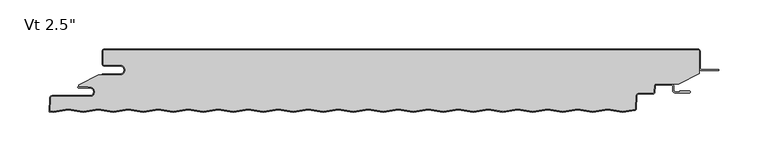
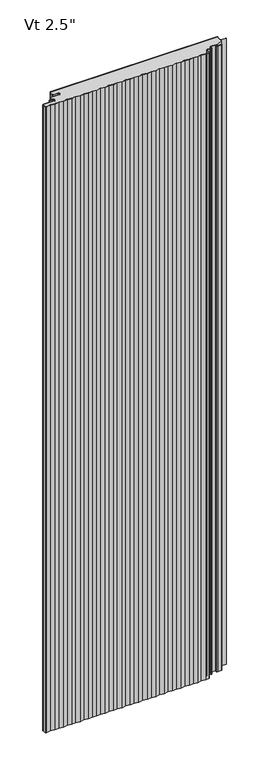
"""IFC4 building model written with IfcOpenShell, lengths in millimetres: plate geometry."""

from ifc_helpers import new_model, si_unit, point, frame, frame_2d, origin, origin_with_axes, place, context, project, spatial, polyline, circle_curve, ellipse_curve, trimmed, segment, composite_curve, outline, extrude, source, transform, mapped, element, save
from ifc_brep_helpers import plane_surface, cylinder_surface, revolved_surface, extruded_surface, advanced_brep


def plate_c93acdc9(model_context):
    return source(origin(), model_context, "Body", "SolidModel", [
        extrude(outline(composite_curve([segment(polyline([(-285.74375, -16.4625), (-301.61875, -16.4625)]), True, "CONTINUOUS"), segment(trimmed(circle_curve(frame_2d((-301.61875, -15.08125)), 1.38125), [point((-301.61875, -16.4625))], [point((-303.0, -15.08125))], False, "CARTESIAN"), True, "CONTINUOUS"), segment(polyline([(-303.0, -15.08125), (-303.0, -2.38125)]), True, "CONTINUOUS"), segment(trimmed(circle_curve(frame_2d((-301.61875, -2.38125)), 1.38125), [point((-303.0, -2.38125))], [point((-301.61875, -1.0))], False, "CARTESIAN"), True, "CONTINUOUS"), segment(polyline([(-301.61875, -1.0), (301.63125, -1.0)]), True, "CONTINUOUS"), segment(trimmed(circle_curve(frame_2d((301.63125, -2.38125)), 1.38125), [point((301.63125, -1.0))], [point((303.0125, -2.38125))], False, "CARTESIAN"), True, "CONTINUOUS"), segment(polyline([(303.0125, -2.38125), (303.0125, -24.9057308), (282.1955434, -35.5125), (259.7540783, -35.5125)]), True, "CONTINUOUS"), segment(trimmed(circle_curve(frame_2d((259.7540783, -38.1)), 2.5875), [point((259.7540783, -35.5125))], [point((257.1701244, -37.9645807))], True, "CARTESIAN"), True, "CONTINUOUS"), segment(polyline([(257.1701244, -37.9645807), (256.8680481, -43.728539)]), True, "CONTINUOUS"), segment(trimmed(circle_curve(frame_2d((255.4886911, -43.65625)), 1.38125), [point((256.8680481, -43.728539))], [point((255.4886911, -45.0375))], False, "CARTESIAN"), True, "CONTINUOUS"), segment(polyline([(255.4886911, -45.0375), (241.3323847, -45.0375)]), True, "CONTINUOUS"), segment(trimmed(circle_curve(frame_2d((241.3323847, -47.625)), 2.5875), [point((241.3323847, -45.0375))], [point((238.7484307, -47.4895807))], True, "CARTESIAN"), True, "CONTINUOUS"), segment(polyline([(238.7484307, -47.4895807), (238.0106485, -61.5673048), (225.2725, -63.6054086), (210.2350675, -61.1994194), (194.9950675, -63.6378194), (179.7550675, -61.1994194), (164.5150675, -63.6378194), (149.2750675, -61.1994194), (134.0350675, -63.6378194), (118.7950675, -61.1994194), (103.5550675, -63.6378194), (88.3150675, -61.1994194), (73.0750675, -63.6378194), (57.8350675, -61.1994194), (42.5950675, -63.6378194), (27.3550675, -61.1994194), (12.1150675, -63.6378194), (-3.1249325, -61.1994194), (-18.3649325, -63.6378194), (-33.6049325, -61.1994194), (-48.8449325, -63.6378194), (-64.0849325, -61.1994194), (-79.3249325, -63.6378194), (-94.5649325, -61.1994194), (-109.8049325, -63.6378194), (-125.0449325, -61.1994194), (-140.2849325, -63.6378194), (-155.5249325, -61.1994194), (-170.7649325, -63.6378194), (-186.0049325, -61.1994194), (-201.2449325, -63.6378194), (-216.4849325, -61.1994194), (-231.7249325, -63.6378194), (-246.9649325, -61.1994194), (-262.2049325, -63.6378194), (-277.4449325, -61.1994194), (-292.6849325, -63.6378194), (-307.9249325, -61.1994194), (-323.1649325, -63.6378194), (-338.4049325, -61.1994194), (-353.6449325, -63.6378194), (-356.9672594, -63.1062471), (-356.2769291, -49.933961)]), True, "CONTINUOUS"), segment(trimmed(circle_curve(frame_2d((-354.8975721, -50.00625)), 1.38125), [point((-356.2769291, -49.933961))], [point((-354.8975721, -48.625))], False, "CARTESIAN"), True, "CONTINUOUS"), segment(polyline([(-354.8975721, -48.625), (-316.7142674, -48.625)]), True, "CONTINUOUS"), segment(trimmed(circle_curve(frame_2d((-316.7142674, -43.65625)), 4.96875), [point((-316.7142674, -48.625))], [point((-316.7142674, -38.6875))], True, "CARTESIAN"), True, "CONTINUOUS"), segment(polyline([(-316.7142674, -38.6875), (-318.3017674, -38.89375), (-318.3017674, -38.1), (-327.8125, -38.1), (-327.8125, -36.5326309), (-307.9260922, -26.4), (-285.74375, -26.4)]), True, "CONTINUOUS"), segment(trimmed(circle_curve(frame_2d((-285.74375, -21.43125)), 4.96875), [point((-285.74375, -26.4))], [point((-285.74375, -16.4625))], True, "CARTESIAN"), True, "CONTINUOUS")], self_intersect=False)), origin_with_axes(), (0.0, 0.0, 1.0), 2400.0),
        extrude(outline(composite_curve([segment(polyline([(-304.0, -25.4), (-285.74375, -25.4)]), True, "CONTINUOUS"), segment(trimmed(circle_curve(frame_2d((-285.74375, -21.43125)), 3.96875), [point((-285.74375, -25.4))], [point((-285.74375, -17.4625))], True, "CARTESIAN"), True, "CONTINUOUS"), segment(polyline([(-285.74375, -17.4625), (-301.61875, -17.4625)]), True, "CONTINUOUS"), segment(trimmed(circle_curve(frame_2d((-301.61875, -15.08125)), 2.38125), [point((-301.61875, -17.4625))], [point((-304.0, -15.08125))], False, "CARTESIAN"), True, "CONTINUOUS"), segment(polyline([(-304.0, -15.08125), (-304.0, -2.38125)]), True, "CONTINUOUS"), segment(trimmed(circle_curve(frame_2d((-301.61875, -2.38125)), 2.38125), [point((-304.0, -2.38125))], [point((-301.61875, 0.0))], False, "CARTESIAN"), True, "CONTINUOUS"), segment(polyline([(-301.61875, 0.0), (301.63125, 0.0)]), True, "CONTINUOUS"), segment(trimmed(circle_curve(frame_2d((301.63125, -2.38125)), 2.38125), [point((301.63125, 0.0))], [point((304.0125, -2.38125))], False, "CARTESIAN"), True, "CONTINUOUS"), segment(polyline([(304.0125, -2.38125), (304.0125, -19.446875)]), True, "CONTINUOUS"), segment(trimmed(circle_curve(frame_2d((305.6, -19.446875)), 1.5875), [point((304.0125, -19.446875))], [point((305.6, -21.034375))], True, "CARTESIAN"), True, "CONTINUOUS"), segment(polyline([(305.6, -21.034375), (323.0625, -21.034375), (323.0625, -22.034375), (305.6, -22.034375)]), True, "CONTINUOUS"), segment(trimmed(circle_curve(frame_2d((305.6, -19.446875)), 2.5875), [point((305.6, -22.034375))], [point((303.0125, -19.446875))], False, "CARTESIAN"), True, "CONTINUOUS"), segment(polyline([(303.0125, -19.446875), (303.0125, -2.38125)]), True, "CONTINUOUS"), segment(trimmed(circle_curve(frame_2d((301.63125, -2.38125)), 1.38125), [point((303.0125, -2.38125))], [point((301.63125, -1.0))], True, "CARTESIAN"), True, "CONTINUOUS"), segment(polyline([(301.63125, -1.0), (-301.61875, -1.0)]), True, "CONTINUOUS"), segment(trimmed(circle_curve(frame_2d((-301.61875, -2.38125)), 1.38125), [point((-301.61875, -1.0))], [point((-303.0, -2.38125))], True, "CARTESIAN"), True, "CONTINUOUS"), segment(polyline([(-303.0, -2.38125), (-303.0, -15.08125)]), True, "CONTINUOUS"), segment(trimmed(circle_curve(frame_2d((-301.61875, -15.08125)), 1.38125), [point((-303.0, -15.08125))], [point((-301.61875, -16.4625))], True, "CARTESIAN"), True, "CONTINUOUS"), segment(polyline([(-301.61875, -16.4625), (-285.74375, -16.4625)]), True, "CONTINUOUS"), segment(trimmed(circle_curve(frame_2d((-285.74375, -21.43125)), 4.96875), [point((-285.74375, -16.4625))], [point((-285.74375, -26.4))], False, "CARTESIAN"), True, "CONTINUOUS"), segment(polyline([(-285.74375, -26.4), (-304.0, -26.4), (-304.0, -25.4)]), True, "CONTINUOUS")], self_intersect=False)), origin_with_axes(), (0.0, 0.0, 1.0), 2400.0),
        advanced_brep(
        [(-328.0252049, -38.1, 2400.0), (-328.0252049, -39.6875, 2400.0), (-316.7142674, -39.6875, 2400.0), (-316.7142674, -47.625, 2400.0), (-354.8975721, -47.625, 2400.0), (-357.2755586, -49.881625, 2400.0), (-358.01832, -64.0543553, 2400.0), (-353.6646686, -64.7509395, 2400.0), (-338.4246686, -62.3125395, 2400.0), (-323.1846686, -64.7509395, 2400.0), (-307.9446686, -62.3125395, 2400.0), (-292.7046686, -64.7509395, 2400.0), (-277.4646686, -62.3125395, 2400.0), (-262.2246686, -64.7509395, 2400.0), (-246.9846686, -62.3125395, 2400.0), (-231.7446686, -64.7509395, 2400.0), (-216.5046686, -62.3125395, 2400.0), (-201.2646686, -64.7509395, 2400.0), (-186.0246686, -62.3125395, 2400.0), (-170.7846686, -64.7509395, 2400.0), (-155.5446686, -62.3125395, 2400.0), (-140.3046686, -64.7509395, 2400.0), (-125.0646686, -62.3125395, 2400.0), (-109.8246686, -64.7509395, 2400.0), (-94.5846686, -62.3125395, 2400.0), (-79.3446686, -64.7509395, 2400.0), (-64.1046686, -62.3125395, 2400.0), (-48.8646686, -64.7509395, 2400.0), (-33.6246686, -62.3125395, 2400.0), (-18.3846686, -64.7509395, 2400.0), (-3.1446686, -62.3125395, 2400.0), (12.0953314, -64.7509395, 2400.0), (27.3353314, -62.3125395, 2400.0), (42.5753314, -64.7509395, 2400.0), (57.8153314, -62.3125395, 2400.0), (73.0553314, -64.7509395, 2400.0), (88.2953314, -62.3125395, 2400.0), (103.5353314, -64.7509395, 2400.0), (118.7753314, -62.3125395, 2400.0), (134.0153314, -64.7509395, 2400.0), (149.2553314, -62.3125395, 2400.0), (164.4953314, -64.7509395, 2400.0), (179.7353314, -62.3125395, 2400.0), (194.9753314, -64.7509395, 2400.0), (210.2153314, -62.3125395, 2400.0), (225.2527639, -64.7185287, 2400.0), (237.6944828, -62.7278537, 2400.0), (239.0289973, -61.243375, 2400.0), (239.7470603, -47.5419167, 2400.0), (241.3323847, -46.0375, 2400.0), (255.4886911, -46.0375, 2400.0), (257.8666776, -43.780875, 2400.0), (258.1687539, -38.0169167, 2400.0), (259.7540783, -36.5125, 2400.0), (274.6294826, -36.5125, 2400.0), (276.2169826, -38.1, 2400.0), (276.2169826, -42.2671875, 2400.0), (278.5982326, -44.6484375, 2400.0), (293.0898532, -44.6484375, 2400.0), (293.0898532, -42.8546875, 2400.0), (283.3607326, -42.8546875, 2400.0), (283.3607326, -43.6484375, 2400.0), (278.5982326, -43.6484375, 2400.0), (277.2169826, -42.2671875, 2400.0), (277.2169826, -38.1, 2400.0), (274.6294826, -35.5125, 2400.0), (259.7540783, -35.5125, 2400.0), (257.1701244, -37.9645807, 2400.0), (256.8680481, -43.728539, 2400.0), (255.4886911, -45.0375, 2400.0), (241.3323847, -45.0375, 2400.0), (238.7484307, -47.4895807, 2400.0), (238.0303677, -61.191039, 2400.0), (237.5364923, -61.740413, 2400.0), (225.2527639, -63.7058096, 2400.0), (210.2153314, -61.2998204, 2400.0), (194.9753314, -63.7382204, 2400.0), (179.7353314, -61.2998204, 2400.0), (164.4953314, -63.7382204, 2400.0), (149.2553314, -61.2998204, 2400.0), (134.0153314, -63.7382204, 2400.0), (118.7753314, -61.2998204, 2400.0), (103.5353314, -63.7382204, 2400.0), (88.2953314, -61.2998204, 2400.0), (73.0553314, -63.7382204, 2400.0), (57.8153314, -61.2998204, 2400.0), (42.5753314, -63.7382204, 2400.0), (27.3353314, -61.2998204, 2400.0), (12.0953314, -63.7382204, 2400.0), (-3.1446686, -61.2998204, 2400.0), (-18.3846686, -63.7382204, 2400.0), (-33.6246686, -61.2998204, 2400.0), (-48.8646686, -63.7382204, 2400.0), (-64.1046686, -61.2998204, 2400.0), (-79.3446686, -63.7382204, 2400.0), (-94.5846686, -61.2998204, 2400.0), (-109.8246686, -63.7382204, 2400.0), (-125.0646686, -61.2998204, 2400.0), (-140.3046686, -63.7382204, 2400.0), (-155.5446686, -61.2998204, 2400.0), (-170.7846686, -63.7382204, 2400.0), (-186.0246686, -61.2998204, 2400.0), (-201.2646686, -63.7382204, 2400.0), (-216.5046686, -61.2998204, 2400.0), (-231.7446686, -63.7382204, 2400.0), (-246.9846686, -61.2998204, 2400.0), (-262.2246686, -63.7382204, 2400.0), (-277.4646686, -61.2998204, 2400.0), (-292.7046686, -63.7382204, 2400.0), (-307.9446686, -61.2998204, 2400.0), (-323.1846686, -63.7382204, 2400.0), (-338.4246686, -61.2998204, 2400.0), (-353.6646686, -63.7382204, 2400.0), (-356.9726415, -63.2089447, 2400.0), (-356.2769291, -49.933961, 2400.0), (-354.8975721, -48.625, 2400.0), (-316.7142674, -48.625, 2400.0), (-316.7142674, -38.6875, 2400.0), (-318.3017674, -38.89375, 2400.0), (-318.3017674, -38.1, 2400.0), (-328.0252049, -38.1, 0.0), (-318.3017674, -38.1, 0.0), (-318.3017674, -38.89375, 0.0), (-316.7142674, -38.6875, 0.0), (-316.7142674, -48.625, 0.0), (-354.8975721, -48.625, 0.0), (-356.2769291, -49.933961, 0.0), (-356.9726415, -63.2089447, 0.0), (-353.6646686, -63.7382204, 0.0), (-338.4246686, -61.2998204, 0.0), (-323.1846686, -63.7382204, 0.0), (-307.9446686, -61.2998204, 0.0), (-292.7046686, -63.7382204, 0.0), (-277.4646686, -61.2998204, 0.0), (-262.2246686, -63.7382204, 0.0), (-246.9846686, -61.2998204, 0.0), (-231.7446686, -63.7382204, 0.0), (-216.5046686, -61.2998204, 0.0), (-201.2646686, -63.7382204, 0.0), (-186.0246686, -61.2998204, 0.0), (-170.7846686, -63.7382204, 0.0), (-155.5446686, -61.2998204, 0.0), (-140.3046686, -63.7382204, 0.0), (-125.0646686, -61.2998204, 0.0), (-109.8246686, -63.7382204, 0.0), (-94.5846686, -61.2998204, 0.0), (-79.3446686, -63.7382204, 0.0), (-64.1046686, -61.2998204, 0.0), (-48.8646686, -63.7382204, 0.0), (-33.6246686, -61.2998204, 0.0), (-18.3846686, -63.7382204, 0.0), (-3.1446686, -61.2998204, 0.0), (12.0953314, -63.7382204, 0.0), (27.3353314, -61.2998204, 0.0), (42.5753314, -63.7382204, 0.0), (57.8153314, -61.2998204, 0.0), (73.0553314, -63.7382204, 0.0), (88.2953314, -61.2998204, 0.0), (103.5353314, -63.7382204, 0.0), (118.7753314, -61.2998204, 0.0), (134.0153314, -63.7382204, 0.0), (149.2553314, -61.2998204, 0.0), (164.4953314, -63.7382204, 0.0), (179.7353314, -61.2998204, 0.0), (194.9753314, -63.7382204, 0.0), (210.2153314, -61.2998204, 0.0), (225.2527639, -63.7058096, 0.0), (237.5364923, -61.740413, 0.0), (238.0303677, -61.191039, 0.0), (238.7484307, -47.4895807, 0.0), (241.3323847, -45.0375, 0.0), (255.4886911, -45.0375, 0.0), (256.8680481, -43.728539, 0.0), (257.1701244, -37.9645807, 0.0), (259.7540783, -35.5125, 0.0), (274.6294826, -35.5125, 0.0), (277.2169826, -38.1, 0.0), (277.2169826, -42.2671875, 0.0), (278.5982326, -43.6484375, 0.0), (283.3607326, -43.6484375, 0.0), (283.3607326, -42.8546875, 0.0), (293.0898532, -42.8546875, 0.0), (293.0898532, -44.6484375, 0.0), (278.5982326, -44.6484375, 0.0), (276.2169826, -42.2671875, 0.0), (276.2169826, -38.1, 0.0), (274.6294826, -36.5125, 0.0), (259.7540783, -36.5125, 0.0), (258.1687539, -38.0169167, 0.0), (257.8666776, -43.780875, 0.0), (255.4886911, -46.0375, 0.0), (241.3323847, -46.0375, 0.0), (239.7470603, -47.5419167, 0.0), (239.0289973, -61.243375, 0.0), (237.6944828, -62.7278537, 0.0), (225.2527639, -64.7185287, 0.0), (210.2153314, -62.3125395, 0.0), (194.9753314, -64.7509395, 0.0), (179.7353314, -62.3125395, 0.0), (164.4953314, -64.7509395, 0.0), (149.2553314, -62.3125395, 0.0), (134.0153314, -64.7509395, 0.0), (118.7753314, -62.3125395, 0.0), (103.5353314, -64.7509395, 0.0), (88.2953314, -62.3125395, 0.0), (73.0553314, -64.7509395, 0.0), (57.8153314, -62.3125395, 0.0), (42.5753314, -64.7509395, 0.0), (27.3353314, -62.3125395, 0.0), (12.0953314, -64.7509395, 0.0), (-3.1446686, -62.3125395, 0.0), (-18.3846686, -64.7509395, 0.0), (-33.6246686, -62.3125395, 0.0), (-48.8646686, -64.7509395, 0.0), (-64.1046686, -62.3125395, 0.0), (-79.3446686, -64.7509395, 0.0), (-94.5846686, -62.3125395, 0.0), (-109.8246686, -64.7509395, 0.0), (-125.0646686, -62.3125395, 0.0), (-140.3046686, -64.7509395, 0.0), (-155.5446686, -62.3125395, 0.0), (-170.7846686, -64.7509395, 0.0), (-186.0246686, -62.3125395, 0.0), (-201.2646686, -64.7509395, 0.0), (-216.5046686, -62.3125395, 0.0), (-231.7446686, -64.7509395, 0.0), (-246.9846686, -62.3125395, 0.0), (-262.2246686, -64.7509395, 0.0), (-277.4646686, -62.3125395, 0.0), (-292.7046686, -64.7509395, 0.0), (-307.9446686, -62.3125395, 0.0), (-323.1846686, -64.7509395, 0.0), (-338.4246686, -62.3125395, 0.0), (-353.6646686, -64.7509395, 0.0), (-358.01832, -64.0543553, 0.0), (-357.2755586, -49.881625, 0.0), (-354.8975721, -47.625, 0.0), (-316.7142674, -47.625, 0.0), (-316.7142674, -39.6875, 0.0), (-328.0252049, -39.6875, 0.0)],
        [
            (0, 1, circle_curve(frame((-328.0252049, -38.89375, 2400.0), z_axis=(0.0, 0.0, 1.0), x_axis=(1.0, 0.0, 0.0)), 0.79375)),
            (1, 2),
            (2, 3, circle_curve(frame((-316.7142674, -43.65625, 2400.0), z_axis=(0.0, 0.0, -1.0), x_axis=(1.0, 0.0, 0.0)), 3.96875)),
            (3, 4),
            (4, 5, circle_curve(frame((-354.8975721, -50.00625, 2400.0), z_axis=(0.0, 0.0, 1.0), x_axis=(1.0, 0.0, 0.0)), 2.38125)),
            (5, 6),
            (6, 7),
            (7, 8),
            (8, 9),
            (9, 10),
            (10, 11),
            (11, 12),
            (12, 13),
            (13, 14),
            (14, 15),
            (15, 16),
            (16, 17),
            (17, 18),
            (18, 19),
            (19, 20),
            (20, 21),
            (21, 22),
            (22, 23),
            (23, 24),
            (24, 25),
            (25, 26),
            (26, 27),
            (27, 28),
            (28, 29),
            (29, 30),
            (30, 31),
            (31, 32),
            (32, 33),
            (33, 34),
            (34, 35),
            (35, 36),
            (36, 37),
            (37, 38),
            (38, 39),
            (39, 40),
            (40, 41),
            (41, 42),
            (42, 43),
            (43, 44),
            (44, 45),
            (45, 46),
            (46, 47, circle_curve(frame((237.4436729, -61.1602917, 2400.0), z_axis=(0.0, 0.0, 1.0), x_axis=(1.0, 0.0, 0.0)), 1.5875)),
            (47, 48),
            (48, 49, circle_curve(frame((241.3323847, -47.625, 2400.0), z_axis=(0.0, 0.0, -1.0), x_axis=(1.0, 0.0, 0.0)), 1.5875)),
            (49, 50),
            (50, 51, circle_curve(frame((255.4886911, -43.65625, 2400.0), z_axis=(0.0, 0.0, 1.0), x_axis=(1.0, 0.0, 0.0)), 2.38125)),
            (51, 52),
            (52, 53, circle_curve(frame((259.7540783, -38.1, 2400.0), z_axis=(0.0, 0.0, -1.0), x_axis=(1.0, 0.0, 0.0)), 1.5875)),
            (53, 54),
            (54, 55, circle_curve(frame((274.6294826, -38.1, 2400.0), z_axis=(0.0, 0.0, -1.0), x_axis=(1.0, 0.0, 0.0)), 1.5875)),
            (55, 56),
            (56, 57, circle_curve(frame((278.5982326, -42.2671875, 2400.0), z_axis=(0.0, 0.0, 1.0), x_axis=(1.0, 0.0, 0.0)), 2.38125)),
            (57, 58),
            (58, 59, ellipse_curve(frame((293.0898532, -43.7515625, 2400.0), z_axis=(0.0, 0.0, 1.0), x_axis=(0.0, 1.0, 0.0)), 0.896875, 0.7852275)),
            (59, 60),
            (60, 61),
            (61, 62),
            (62, 63, circle_curve(frame((278.5982326, -42.2671875, 2400.0), z_axis=(0.0, 0.0, -1.0), x_axis=(1.0, 0.0, 0.0)), 1.38125)),
            (63, 64),
            (64, 65, circle_curve(frame((274.6294826, -38.1, 2400.0), z_axis=(0.0, 0.0, 1.0), x_axis=(1.0, 0.0, 0.0)), 2.5875)),
            (65, 66),
            (66, 67, circle_curve(frame((259.7540783, -38.1, 2400.0), z_axis=(0.0, 0.0, 1.0), x_axis=(1.0, 0.0, 0.0)), 2.5875)),
            (67, 68),
            (68, 69, circle_curve(frame((255.4886911, -43.65625, 2400.0), z_axis=(0.0, 0.0, -1.0), x_axis=(1.0, 0.0, 0.0)), 1.38125)),
            (69, 70),
            (70, 71, circle_curve(frame((241.3323847, -47.625, 2400.0), z_axis=(0.0, 0.0, 1.0), x_axis=(1.0, 0.0, 0.0)), 2.5875)),
            (71, 72),
            (72, 73, circle_curve(frame((237.4436729, -61.1602917, 2400.0), z_axis=(0.0, 0.0, -1.0), x_axis=(1.0, 0.0, 0.0)), 0.5875)),
            (73, 74),
            (74, 75),
            (75, 76),
            (76, 77),
            (77, 78),
            (78, 79),
            (79, 80),
            (80, 81),
            (81, 82),
            (82, 83),
            (83, 84),
            (84, 85),
            (85, 86),
            (86, 87),
            (87, 88),
            (88, 89),
            (89, 90),
            (90, 91),
            (91, 92),
            (92, 93),
            (93, 94),
            (94, 95),
            (95, 96),
            (96, 97),
            (97, 98),
            (98, 99),
            (99, 100),
            (100, 101),
            (101, 102),
            (102, 103),
            (103, 104),
            (104, 105),
            (105, 106),
            (106, 107),
            (107, 108),
            (108, 109),
            (109, 110),
            (110, 111),
            (111, 112),
            (112, 113),
            (113, 114),
            (114, 115, circle_curve(frame((-354.8975721, -50.00625, 2400.0), z_axis=(0.0, 0.0, -1.0), x_axis=(1.0, 0.0, 0.0)), 1.38125)),
            (115, 116),
            (116, 117, circle_curve(frame((-316.7142674, -43.65625, 2400.0), z_axis=(0.0, 0.0, 1.0), x_axis=(1.0, 0.0, 0.0)), 4.96875)),
            (117, 118),
            (118, 119),
            (119, 0),
            (120, 121),
            (121, 122),
            (122, 123),
            (123, 124, circle_curve(frame((-316.7142674, -43.65625, 0.0), z_axis=(0.0, 0.0, -1.0), x_axis=(1.0, 0.0, 0.0)), 4.96875)),
            (124, 125),
            (125, 126, circle_curve(frame((-354.8975721, -50.00625, 0.0), z_axis=(0.0, 0.0, 1.0), x_axis=(1.0, 0.0, 0.0)), 1.38125)),
            (126, 127),
            (127, 128),
            (128, 129),
            (129, 130),
            (130, 131),
            (131, 132),
            (132, 133),
            (133, 134),
            (134, 135),
            (135, 136),
            (136, 137),
            (137, 138),
            (138, 139),
            (139, 140),
            (140, 141),
            (141, 142),
            (142, 143),
            (143, 144),
            (144, 145),
            (145, 146),
            (146, 147),
            (147, 148),
            (148, 149),
            (149, 150),
            (150, 151),
            (151, 152),
            (152, 153),
            (153, 154),
            (154, 155),
            (155, 156),
            (156, 157),
            (157, 158),
            (158, 159),
            (159, 160),
            (160, 161),
            (161, 162),
            (162, 163),
            (163, 164),
            (164, 165),
            (165, 166),
            (166, 167),
            (167, 168, circle_curve(frame((237.4436729, -61.1602917, 0.0), z_axis=(0.0, 0.0, 1.0), x_axis=(1.0, 0.0, 0.0)), 0.5875)),
            (168, 169),
            (169, 170, circle_curve(frame((241.3323847, -47.625, 0.0), z_axis=(0.0, 0.0, -1.0), x_axis=(1.0, 0.0, 0.0)), 2.5875)),
            (170, 171),
            (171, 172, circle_curve(frame((255.4886911, -43.65625, 0.0), z_axis=(0.0, 0.0, 1.0), x_axis=(1.0, 0.0, 0.0)), 1.38125)),
            (172, 173),
            (173, 174, circle_curve(frame((259.7540783, -38.1, 0.0), z_axis=(0.0, 0.0, -1.0), x_axis=(1.0, 0.0, 0.0)), 2.5875)),
            (174, 175),
            (175, 176, circle_curve(frame((274.6294826, -38.1, 0.0), z_axis=(0.0, 0.0, -1.0), x_axis=(1.0, 0.0, 0.0)), 2.5875)),
            (176, 177),
            (177, 178, circle_curve(frame((278.5982326, -42.2671875, 0.0), z_axis=(0.0, 0.0, 1.0), x_axis=(1.0, 0.0, 0.0)), 1.38125)),
            (178, 179),
            (179, 180),
            (180, 181),
            (181, 182, ellipse_curve(frame((293.0898532, -43.7515625, 0.0), z_axis=(0.0, 0.0, -1.0), x_axis=(0.0, 1.0, 0.0)), 0.896875, 0.7852275)),
            (182, 183),
            (183, 184, circle_curve(frame((278.5982326, -42.2671875, 0.0), z_axis=(0.0, 0.0, -1.0), x_axis=(1.0, 0.0, 0.0)), 2.38125)),
            (184, 185),
            (185, 186, circle_curve(frame((274.6294826, -38.1, 0.0), z_axis=(0.0, 0.0, 1.0), x_axis=(1.0, 0.0, 0.0)), 1.5875)),
            (186, 187),
            (187, 188, circle_curve(frame((259.7540783, -38.1, 0.0), z_axis=(0.0, 0.0, 1.0), x_axis=(1.0, 0.0, 0.0)), 1.5875)),
            (188, 189),
            (189, 190, circle_curve(frame((255.4886911, -43.65625, 0.0), z_axis=(0.0, 0.0, -1.0), x_axis=(1.0, 0.0, 0.0)), 2.38125)),
            (190, 191),
            (191, 192, circle_curve(frame((241.3323847, -47.625, 0.0), z_axis=(0.0, 0.0, 1.0), x_axis=(1.0, 0.0, 0.0)), 1.5875)),
            (192, 193),
            (193, 194, circle_curve(frame((237.4436729, -61.1602917, 0.0), z_axis=(0.0, 0.0, -1.0), x_axis=(1.0, 0.0, 0.0)), 1.5875)),
            (194, 195),
            (195, 196),
            (196, 197),
            (197, 198),
            (198, 199),
            (199, 200),
            (200, 201),
            (201, 202),
            (202, 203),
            (203, 204),
            (204, 205),
            (205, 206),
            (206, 207),
            (207, 208),
            (208, 209),
            (209, 210),
            (210, 211),
            (211, 212),
            (212, 213),
            (213, 214),
            (214, 215),
            (215, 216),
            (216, 217),
            (217, 218),
            (218, 219),
            (219, 220),
            (220, 221),
            (221, 222),
            (222, 223),
            (223, 224),
            (224, 225),
            (225, 226),
            (226, 227),
            (227, 228),
            (228, 229),
            (229, 230),
            (230, 231),
            (231, 232),
            (232, 233),
            (233, 234),
            (234, 235),
            (235, 236, circle_curve(frame((-354.8975721, -50.00625, 0.0), z_axis=(0.0, 0.0, -1.0), x_axis=(1.0, 0.0, 0.0)), 2.38125)),
            (236, 237),
            (237, 238, circle_curve(frame((-316.7142674, -43.65625, 0.0), z_axis=(0.0, 0.0, 1.0), x_axis=(1.0, 0.0, 0.0)), 3.96875)),
            (238, 239),
            (239, 120, circle_curve(frame((-328.0252049, -38.89375, 0.0), z_axis=(0.0, 0.0, -1.0), x_axis=(1.0, 0.0, 0.0)), 0.79375)),
            (119, 121),
            (120, 0),
            (239, 1),
            (238, 2),
            (237, 3),
            (236, 4),
            (235, 5),
            (234, 6),
            (48, 192),
            (191, 49),
            (190, 50),
            (189, 51),
            (188, 52),
            (187, 53),
            (114, 126),
            (125, 115),
            (113, 127),
            (70, 170),
            (169, 71),
            (69, 171),
            (68, 172),
            (67, 173),
            (66, 174),
            (61, 179),
            (178, 62),
            (177, 63),
            (176, 64),
            (186, 54),
            (185, 55),
            (184, 56),
            (183, 57),
            (182, 58),
            (65, 175),
            (124, 116),
            (123, 117),
            (118, 122),
            (60, 180),
            (59, 181),
            (47, 193),
            (168, 72),
            (44, 196),
            (195, 45),
            (74, 166),
            (165, 75),
            (164, 76),
            (163, 77),
            (162, 78),
            (161, 79),
            (160, 80),
            (159, 81),
            (158, 82),
            (157, 83),
            (156, 84),
            (155, 85),
            (154, 86),
            (153, 87),
            (152, 88),
            (151, 89),
            (107, 133),
            (132, 108),
            (131, 109),
            (130, 110),
            (129, 111),
            (106, 134),
            (105, 135),
            (104, 136),
            (103, 137),
            (102, 138),
            (101, 139),
            (100, 140),
            (99, 141),
            (98, 142),
            (97, 143),
            (96, 144),
            (95, 145),
            (94, 146),
            (93, 147),
            (92, 148),
            (91, 149),
            (90, 150),
            (128, 112),
            (233, 7),
            (232, 8),
            (231, 9),
            (230, 10),
            (229, 11),
            (228, 12),
            (227, 13),
            (226, 14),
            (225, 15),
            (224, 16),
            (223, 17),
            (222, 18),
            (30, 210),
            (209, 31),
            (208, 32),
            (207, 33),
            (206, 34),
            (205, 35),
            (204, 36),
            (203, 37),
            (202, 38),
            (201, 39),
            (200, 40),
            (199, 41),
            (198, 42),
            (197, 43),
            (194, 46),
            (167, 73),
            (29, 211),
            (28, 212),
            (27, 213),
            (26, 214),
            (25, 215),
            (24, 216),
            (23, 217),
            (22, 218),
            (21, 219),
            (20, 220),
            (19, 221),
        ],
        [
            plane_surface(frame((0.00625, -63.5, 2400.0), z_axis=(0.0, 0.0, 1.0), x_axis=(0.0, -1.0, 0.0))),
            plane_surface(frame((0.00625, -63.5, 0.0), z_axis=(0.0, 0.0, -1.0), x_axis=(0.0, -1.0, 0.0))),
            plane_surface(frame((-328.0252049, -38.1, 2400.0), z_axis=(0.0, 1.0, 0.0), x_axis=(0.0, 0.0, -1.0))),
            cylinder_surface(frame((-328.0252049, -38.89375, 2400.0), z_axis=(0.0, 0.0, 1.0), x_axis=(1.0, 0.0, 0.0)), 0.79375),
            plane_surface(frame((-316.7142674, -39.6875, 2400.0), z_axis=(0.0, -1.0, 0.0), x_axis=(0.0, 0.0, -1.0))),
            revolved_surface(polyline([(-312.7455174, -43.65625, 0.0), (-312.7455174, -43.65625, 2400.0)]), (-316.7142674, -43.65625, 2400.0), (0.0, 0.0, -1.0)),
            plane_surface(frame((-354.8975721, -47.625, 2400.0), z_axis=(0.0, 1.0, 0.0), x_axis=(0.0, 0.0, -1.0))),
            cylinder_surface(frame((-354.8975721, -50.00625, 2400.0), z_axis=(0.0, 0.0, 1.0), x_axis=(1.0, 0.0, 0.0)), 2.38125),
            plane_surface(frame((-358.01832, -64.0543553, 2400.0), z_axis=(-0.9986295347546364, 0.05233595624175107, 0.0), x_axis=(0.0, 0.0, -1.0))),
            revolved_surface(polyline([(242.9198847, -47.625, 0.0), (242.9198847, -47.625, 2400.0)]), (241.3323847, -47.625, 2400.0), (0.0, 0.0, -1.0)),
            plane_surface(frame((255.4886911, -46.0375, 2400.0), z_axis=(0.0, -1.0, 0.0), x_axis=(0.0, 0.0, -1.0))),
            cylinder_surface(frame((255.4886911, -43.65625, 2400.0), z_axis=(0.0, 0.0, 1.0), x_axis=(1.0, 0.0, 0.0)), 2.38125),
            plane_surface(frame((258.1687539, -38.0169167, 2400.0), z_axis=(0.9986295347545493, -0.052335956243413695, 0.0), x_axis=(0.0, 0.0, -1.0))),
            revolved_surface(polyline([(261.3415783, -38.1, 0.0), (261.3415783, -38.1, 2400.0)]), (259.7540783, -38.1, 2400.0), (0.0, 0.0, -1.0)),
            revolved_surface(polyline([(-353.51632209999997, -50.00625, 0.0), (-353.51632209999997, -50.00625, 2400.0)]), (-354.8975721, -50.00625, 2400.0), (0.0, 0.0, -1.0)),
            plane_surface(frame((-356.2769291, -49.933961, 2400.0), z_axis=(0.9986295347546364, -0.05233595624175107, 0.0), x_axis=(0.0, 0.0, -1.0))),
            cylinder_surface(frame((241.3323847, -47.625, 2400.0), z_axis=(0.0, 0.0, 1.0), x_axis=(1.0, 0.0, 0.0)), 2.5875),
            plane_surface(frame((241.3323847, -45.0375, 2400.0), z_axis=(0.0, 1.0, 0.0), x_axis=(0.0, 0.0, -1.0))),
            revolved_surface(polyline([(256.8699411, -43.65625, 0.0), (256.8699411, -43.65625, 2400.0)]), (255.4886911, -43.65625, 2400.0), (0.0, 0.0, -1.0)),
            plane_surface(frame((256.8680481, -43.728539, 2400.0), z_axis=(-0.998629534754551, 0.05233595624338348, 0.0), x_axis=(0.0, 0.0, -1.0))),
            cylinder_surface(frame((259.7540783, -38.1, 2400.0), z_axis=(0.0, 0.0, 1.0), x_axis=(1.0, 0.0, 0.0)), 2.5875),
            plane_surface(frame((278.5982326, -43.6484375, 2400.0), z_axis=(0.0, 1.0, 0.0), x_axis=(0.0, 0.0, -1.0))),
            revolved_surface(polyline([(279.97948260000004, -42.2671875, 0.0), (279.97948260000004, -42.2671875, 2400.0)]), (278.5982326, -42.2671875, 2400.0), (0.0, 0.0, -1.0)),
            plane_surface(frame((277.2169826, -38.1, 2400.0), z_axis=(1.0, 0.0, 0.0), x_axis=(0.0, 0.0, -1.0))),
            plane_surface(frame((274.6294826, -36.5125, 2400.0), z_axis=(0.0, -1.0, 0.0), x_axis=(0.0, 0.0, -1.0))),
            revolved_surface(polyline([(276.2169826, -38.1, 0.0), (276.2169826, -38.1, 2400.0)]), (274.6294826, -38.1, 2400.0), (0.0, 0.0, -1.0)),
            plane_surface(frame((276.2169826, -42.2671875, 2400.0), z_axis=(-1.0, 0.0, 0.0), x_axis=(0.0, 0.0, -1.0))),
            cylinder_surface(frame((278.5982326, -42.2671875, 2400.0), z_axis=(0.0, 0.0, 1.0), x_axis=(1.0, 0.0, 0.0)), 2.38125),
            plane_surface(frame((293.0898532, -44.6484375, 2400.0), z_axis=(0.0, -1.0, 0.0), x_axis=(0.0, 0.0, -1.0))),
            plane_surface(frame((259.7540783, -35.5125, 2400.0), z_axis=(0.0, 1.0, 0.0), x_axis=(0.0, 0.0, -1.0))),
            cylinder_surface(frame((274.6294826, -38.1, 2400.0), z_axis=(0.0, 0.0, 1.0), x_axis=(1.0, 0.0, 0.0)), 2.5875),
            plane_surface(frame((-316.7142674, -48.625, 2400.0), z_axis=(0.0, -1.0, 0.0), x_axis=(0.0, 0.0, -1.0))),
            cylinder_surface(frame((-316.7142674, -43.65625, 2400.0), z_axis=(0.0, 0.0, 1.0), x_axis=(1.0, 0.0, 0.0)), 4.96875),
            plane_surface(frame((-318.3017674, -38.1, 2400.0), z_axis=(1.0, 0.0, 0.0), x_axis=(0.0, 0.0, -1.0))),
            plane_surface(frame((-318.3017674, -38.89375, 2400.0), z_axis=(-0.12883844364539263, 0.9916655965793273, 0.0), x_axis=(0.0, 0.0, -1.0))),
            plane_surface(frame((283.3607326, -43.6484375, 2400.0), z_axis=(-1.0, 0.0, 0.0), x_axis=(0.0, 0.0, -1.0))),
            plane_surface(frame((283.3607326, -42.8546875, 2400.0), z_axis=(0.0, 1.0, 0.0), x_axis=(0.0, 0.0, -1.0))),
            extruded_surface(trimmed(ellipse_curve(frame((293.0898532, -43.7515625, 2400.0), z_axis=(0.0, 0.0, -1.0), x_axis=(0.0, 1.0, 0.0)), 0.896875, 0.7852275), [point((293.0898532, -42.8546875, 2400.0))], [point((293.0898532, -44.6484375, 2400.0))], True, "CARTESIAN"), (0.0, 0.0, -2400.0), 2400.0),
            plane_surface(frame((239.7470603, -47.5419167, 2400.0), z_axis=(0.9986295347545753, -0.052335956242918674, 0.0), x_axis=(0.0, 0.0, -1.0))),
            plane_surface(frame((238.0303677, -61.191039, 2400.0), z_axis=(-0.9986295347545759, 0.05233595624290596, 0.0), x_axis=(0.0, 0.0, -1.0))),
            plane_surface(frame((225.2527639, -64.7185287, 2400.0), z_axis=(-0.15799050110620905, -0.9874406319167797, 0.0), x_axis=(0.0, 0.0, -1.0))),
            plane_surface(frame((210.2153314, -61.2998204, 2400.0), z_axis=(0.15799050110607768, 0.9874406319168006, 0.0), x_axis=(0.0, 0.0, -1.0))),
            plane_surface(frame((194.9753314, -63.7382204, 2400.0), z_axis=(-0.15799050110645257, 0.9874406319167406, 0.0), x_axis=(0.0, 0.0, -1.0))),
            plane_surface(frame((179.7353314, -61.2998204, 2400.0), z_axis=(0.157990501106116, 0.9874406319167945, 0.0), x_axis=(0.0, 0.0, -1.0))),
            plane_surface(frame((164.4953314, -63.7382204, 2400.0), z_axis=(-0.15799050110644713, 0.9874406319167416, 0.0), x_axis=(0.0, 0.0, -1.0))),
            plane_surface(frame((149.2553314, -61.2998204, 2400.0), z_axis=(0.157990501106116, 0.9874406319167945, 0.0), x_axis=(0.0, 0.0, -1.0))),
            plane_surface(frame((134.0153314, -63.7382204, 2400.0), z_axis=(-0.15799050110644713, 0.9874406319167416, 0.0), x_axis=(0.0, 0.0, -1.0))),
            plane_surface(frame((118.7753314, -61.2998204, 2400.0), z_axis=(0.157990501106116, 0.9874406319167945, 0.0), x_axis=(0.0, 0.0, -1.0))),
            plane_surface(frame((103.5353314, -63.7382204, 2400.0), z_axis=(-0.15799050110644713, 0.9874406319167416, 0.0), x_axis=(0.0, 0.0, -1.0))),
            plane_surface(frame((88.2953314, -61.2998204, 2400.0), z_axis=(0.15799050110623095, 0.9874406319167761, 0.0), x_axis=(0.0, 0.0, -1.0))),
            plane_surface(frame((73.0553314, -63.7382204, 2400.0), z_axis=(-0.15799050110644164, 0.9874406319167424, 0.0), x_axis=(0.0, 0.0, -1.0))),
            plane_surface(frame((57.8153314, -61.2998204, 2400.0), z_axis=(0.15799050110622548, 0.987440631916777, 0.0), x_axis=(0.0, 0.0, -1.0))),
            plane_surface(frame((42.5753314, -63.7382204, 2400.0), z_axis=(-0.15799050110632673, 0.9874406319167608, 0.0), x_axis=(0.0, 0.0, -1.0))),
            plane_surface(frame((27.3353314, -61.2998204, 2400.0), z_axis=(0.15799050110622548, 0.987440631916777, 0.0), x_axis=(0.0, 0.0, -1.0))),
            plane_surface(frame((12.0953314, -63.7382204, 2400.0), z_axis=(-0.15799050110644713, 0.9874406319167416, 0.0), x_axis=(0.0, 0.0, -1.0))),
            plane_surface(frame((-3.1446686, -61.2998204, 2400.0), z_axis=(0.15799050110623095, 0.9874406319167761, 0.0), x_axis=(0.0, 0.0, -1.0))),
            plane_surface(frame((-292.7046686, -63.7382204, 2400.0), z_axis=(-0.15799050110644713, 0.9874406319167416, 0.0), x_axis=(0.0, 0.0, -1.0))),
            plane_surface(frame((-307.9446686, -61.2998204, 2400.0), z_axis=(0.15799050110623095, 0.9874406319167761, 0.0), x_axis=(0.0, 0.0, -1.0))),
            plane_surface(frame((-323.1846686, -63.7382204, 2400.0), z_axis=(-0.15799050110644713, 0.9874406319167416, 0.0), x_axis=(0.0, 0.0, -1.0))),
            plane_surface(frame((-338.4246686, -61.2998204, 2400.0), z_axis=(0.157990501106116, 0.9874406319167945, 0.0), x_axis=(0.0, 0.0, -1.0))),
            plane_surface(frame((-277.4646686, -61.2998204, 2400.0), z_axis=(0.15799050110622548, 0.987440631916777, 0.0), x_axis=(0.0, 0.0, -1.0))),
            plane_surface(frame((-262.2246686, -63.7382204, 2400.0), z_axis=(-0.15799050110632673, 0.9874406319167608, 0.0), x_axis=(0.0, 0.0, -1.0))),
            plane_surface(frame((-246.9846686, -61.2998204, 2400.0), z_axis=(0.15799050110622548, 0.987440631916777, 0.0), x_axis=(0.0, 0.0, -1.0))),
            plane_surface(frame((-231.7446686, -63.7382204, 2400.0), z_axis=(-0.15799050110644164, 0.9874406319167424, 0.0), x_axis=(0.0, 0.0, -1.0))),
            plane_surface(frame((-216.5046686, -61.2998204, 2400.0), z_axis=(0.15799050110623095, 0.9874406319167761, 0.0), x_axis=(0.0, 0.0, -1.0))),
            plane_surface(frame((-201.2646686, -63.7382204, 2400.0), z_axis=(-0.15799050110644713, 0.9874406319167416, 0.0), x_axis=(0.0, 0.0, -1.0))),
            plane_surface(frame((-186.0246686, -61.2998204, 2400.0), z_axis=(0.157990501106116, 0.9874406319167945, 0.0), x_axis=(0.0, 0.0, -1.0))),
            plane_surface(frame((-170.7846686, -63.7382204, 2400.0), z_axis=(-0.15799050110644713, 0.9874406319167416, 0.0), x_axis=(0.0, 0.0, -1.0))),
            plane_surface(frame((-155.5446686, -61.2998204, 2400.0), z_axis=(0.15799050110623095, 0.9874406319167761, 0.0), x_axis=(0.0, 0.0, -1.0))),
            plane_surface(frame((-140.3046686, -63.7382204, 2400.0), z_axis=(-0.15799050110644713, 0.9874406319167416, 0.0), x_axis=(0.0, 0.0, -1.0))),
            plane_surface(frame((-125.0646686, -61.2998204, 2400.0), z_axis=(0.15799050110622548, 0.987440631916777, 0.0), x_axis=(0.0, 0.0, -1.0))),
            plane_surface(frame((-109.8246686, -63.7382204, 2400.0), z_axis=(-0.15799050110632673, 0.9874406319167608, 0.0), x_axis=(0.0, 0.0, -1.0))),
            plane_surface(frame((-94.5846686, -61.2998204, 2400.0), z_axis=(0.15799050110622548, 0.987440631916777, 0.0), x_axis=(0.0, 0.0, -1.0))),
            plane_surface(frame((-79.3446686, -63.7382204, 2400.0), z_axis=(-0.15799050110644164, 0.9874406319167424, 0.0), x_axis=(0.0, 0.0, -1.0))),
            plane_surface(frame((-64.1046686, -61.2998204, 2400.0), z_axis=(0.15799050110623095, 0.9874406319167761, 0.0), x_axis=(0.0, 0.0, -1.0))),
            plane_surface(frame((-48.8646686, -63.7382204, 2400.0), z_axis=(-0.15799050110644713, 0.9874406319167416, 0.0), x_axis=(0.0, 0.0, -1.0))),
            plane_surface(frame((-33.6246686, -61.2998204, 2400.0), z_axis=(0.157990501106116, 0.9874406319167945, 0.0), x_axis=(0.0, 0.0, -1.0))),
            plane_surface(frame((-18.3846686, -63.7382204, 2400.0), z_axis=(-0.15799050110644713, 0.9874406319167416, 0.0), x_axis=(0.0, 0.0, -1.0))),
            plane_surface(frame((-353.6646686, -63.7382204, 2400.0), z_axis=(-0.15799050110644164, 0.9874406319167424, 0.0), x_axis=(0.0, 0.0, -1.0))),
            plane_surface(frame((-356.9726415, -63.2089447, 2400.0), z_axis=(0.1579905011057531, 0.9874406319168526, 0.0), x_axis=(0.0, 0.0, -1.0))),
            plane_surface(frame((-353.6646686, -64.7509395, 2400.0), z_axis=(-0.15799050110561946, -0.9874406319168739, 0.0), x_axis=(0.0, 0.0, -1.0))),
            plane_surface(frame((-338.4246686, -62.3125395, 2400.0), z_axis=(0.15799050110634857, -0.9874406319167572, 0.0), x_axis=(0.0, 0.0, -1.0))),
            plane_surface(frame((-323.1846686, -64.7509395, 2400.0), z_axis=(-0.15799050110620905, -0.9874406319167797, 0.0), x_axis=(0.0, 0.0, -1.0))),
            plane_surface(frame((-307.9446686, -62.3125395, 2400.0), z_axis=(0.15799050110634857, -0.9874406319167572, 0.0), x_axis=(0.0, 0.0, -1.0))),
            plane_surface(frame((-292.7046686, -64.7509395, 2400.0), z_axis=(-0.15799050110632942, -0.9874406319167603, 0.0), x_axis=(0.0, 0.0, -1.0))),
            plane_surface(frame((-277.4646686, -62.3125395, 2400.0), z_axis=(0.15799050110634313, -0.9874406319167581, 0.0), x_axis=(0.0, 0.0, -1.0))),
            plane_surface(frame((-262.2246686, -64.7509395, 2400.0), z_axis=(-0.15799050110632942, -0.9874406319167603, 0.0), x_axis=(0.0, 0.0, -1.0))),
            plane_surface(frame((-246.9846686, -62.3125395, 2400.0), z_axis=(0.1579905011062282, -0.9874406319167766, 0.0), x_axis=(0.0, 0.0, -1.0))),
            plane_surface(frame((-231.7446686, -64.7509395, 2400.0), z_axis=(-0.15799050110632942, -0.9874406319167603, 0.0), x_axis=(0.0, 0.0, -1.0))),
            plane_surface(frame((-216.5046686, -62.3125395, 2400.0), z_axis=(0.15799050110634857, -0.9874406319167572, 0.0), x_axis=(0.0, 0.0, -1.0))),
            plane_surface(frame((-201.2646686, -64.7509395, 2400.0), z_axis=(-0.15799050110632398, -0.9874406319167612, 0.0), x_axis=(0.0, 0.0, -1.0))),
            plane_surface(frame((-186.0246686, -62.3125395, 2400.0), z_axis=(0.15799050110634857, -0.9874406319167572, 0.0), x_axis=(0.0, 0.0, -1.0))),
            plane_surface(frame((12.0953314, -64.7509395, 2400.0), z_axis=(-0.15799050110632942, -0.9874406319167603, 0.0), x_axis=(0.0, 0.0, -1.0))),
            plane_surface(frame((27.3353314, -62.3125395, 2400.0), z_axis=(0.15799050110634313, -0.9874406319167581, 0.0), x_axis=(0.0, 0.0, -1.0))),
            plane_surface(frame((42.5753314, -64.7509395, 2400.0), z_axis=(-0.15799050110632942, -0.9874406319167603, 0.0), x_axis=(0.0, 0.0, -1.0))),
            plane_surface(frame((57.8153314, -62.3125395, 2400.0), z_axis=(0.1579905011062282, -0.9874406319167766, 0.0), x_axis=(0.0, 0.0, -1.0))),
            plane_surface(frame((73.0553314, -64.7509395, 2400.0), z_axis=(-0.15799050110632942, -0.9874406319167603, 0.0), x_axis=(0.0, 0.0, -1.0))),
            plane_surface(frame((88.2953314, -62.3125395, 2400.0), z_axis=(0.15799050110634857, -0.9874406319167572, 0.0), x_axis=(0.0, 0.0, -1.0))),
            plane_surface(frame((103.5353314, -64.7509395, 2400.0), z_axis=(-0.15799050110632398, -0.9874406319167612, 0.0), x_axis=(0.0, 0.0, -1.0))),
            plane_surface(frame((118.7753314, -62.3125395, 2400.0), z_axis=(0.15799050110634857, -0.9874406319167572, 0.0), x_axis=(0.0, 0.0, -1.0))),
            plane_surface(frame((134.0153314, -64.7509395, 2400.0), z_axis=(-0.15799050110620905, -0.9874406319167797, 0.0), x_axis=(0.0, 0.0, -1.0))),
            plane_surface(frame((149.2553314, -62.3125395, 2400.0), z_axis=(0.15799050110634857, -0.9874406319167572, 0.0), x_axis=(0.0, 0.0, -1.0))),
            plane_surface(frame((164.4953314, -64.7509395, 2400.0), z_axis=(-0.15799050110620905, -0.9874406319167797, 0.0), x_axis=(0.0, 0.0, -1.0))),
            plane_surface(frame((179.7353314, -62.3125395, 2400.0), z_axis=(0.15799050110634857, -0.9874406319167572, 0.0), x_axis=(0.0, 0.0, -1.0))),
            plane_surface(frame((194.9753314, -64.7509395, 2400.0), z_axis=(-0.15799050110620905, -0.9874406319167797, 0.0), x_axis=(0.0, 0.0, -1.0))),
            plane_surface(frame((210.2153314, -62.3125395, 2400.0), z_axis=(0.15799050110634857, -0.9874406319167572, 0.0), x_axis=(0.0, 0.0, -1.0))),
            plane_surface(frame((237.6944828, -62.7278537, 2400.0), z_axis=(0.15799050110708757, -0.987440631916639, 0.0), x_axis=(0.0, 0.0, -1.0))),
            cylinder_surface(frame((237.4436729, -61.1602917, 2400.0), z_axis=(0.0, 0.0, 1.0), x_axis=(1.0, 0.0, 0.0)), 1.5875),
            revolved_surface(polyline([(238.0311729, -61.1602917, 0.0), (238.0311729, -61.1602917, 2400.0)]), (237.4436729, -61.1602917, 2400.0), (0.0, 0.0, -1.0)),
            plane_surface(frame((225.2527639, -63.7058096, 2400.0), z_axis=(-0.15799050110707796, 0.9874406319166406, 0.0), x_axis=(0.0, 0.0, -1.0))),
            plane_surface(frame((-3.1446686, -62.3125395, 2400.0), z_axis=(0.15799050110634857, -0.9874406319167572, 0.0), x_axis=(0.0, 0.0, -1.0))),
            plane_surface(frame((-18.3846686, -64.7509395, 2400.0), z_axis=(-0.15799050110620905, -0.9874406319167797, 0.0), x_axis=(0.0, 0.0, -1.0))),
            plane_surface(frame((-33.6246686, -62.3125395, 2400.0), z_axis=(0.15799050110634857, -0.9874406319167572, 0.0), x_axis=(0.0, 0.0, -1.0))),
            plane_surface(frame((-48.8646686, -64.7509395, 2400.0), z_axis=(-0.15799050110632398, -0.9874406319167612, 0.0), x_axis=(0.0, 0.0, -1.0))),
            plane_surface(frame((-64.1046686, -62.3125395, 2400.0), z_axis=(0.15799050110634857, -0.9874406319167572, 0.0), x_axis=(0.0, 0.0, -1.0))),
            plane_surface(frame((-79.3446686, -64.7509395, 2400.0), z_axis=(-0.15799050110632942, -0.9874406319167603, 0.0), x_axis=(0.0, 0.0, -1.0))),
            plane_surface(frame((-94.5846686, -62.3125395, 2400.0), z_axis=(0.1579905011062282, -0.9874406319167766, 0.0), x_axis=(0.0, 0.0, -1.0))),
            plane_surface(frame((-109.8246686, -64.7509395, 2400.0), z_axis=(-0.15799050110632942, -0.9874406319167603, 0.0), x_axis=(0.0, 0.0, -1.0))),
            plane_surface(frame((-125.0646686, -62.3125395, 2400.0), z_axis=(0.15799050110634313, -0.9874406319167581, 0.0), x_axis=(0.0, 0.0, -1.0))),
            plane_surface(frame((-140.3046686, -64.7509395, 2400.0), z_axis=(-0.15799050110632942, -0.9874406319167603, 0.0), x_axis=(0.0, 0.0, -1.0))),
            plane_surface(frame((-155.5446686, -62.3125395, 2400.0), z_axis=(0.15799050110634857, -0.9874406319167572, 0.0), x_axis=(0.0, 0.0, -1.0))),
            plane_surface(frame((-170.7846686, -64.7509395, 2400.0), z_axis=(-0.15799050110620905, -0.9874406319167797, 0.0), x_axis=(0.0, 0.0, -1.0))),
        ],
        [
            (0, [[1, 2, 3, 4, 5, 6, 7, 8, 9, 10, 11, 12, 13, 14, 15, 16, 17, 18, 19, 20, 21, 22, 23, 24, 25, 26, 27, 28, 29, 30, 31, 32, 33, 34, 35, 36, 37, 38, 39, 40, 41, 42, 43, 44, 45, 46, 47, 48, 49, 50, 51, 52, 53, 54, 55, 56, 57, 58, 59, 60, 61, 62, 63, 64, 65, 66, 67, 68, 69, 70, 71, 72, 73, 74, 75, 76, 77, 78, 79, 80, 81, 82, 83, 84, 85, 86, 87, 88, 89, 90, 91, 92, 93, 94, 95, 96, 97, 98, 99, 100, 101, 102, 103, 104, 105, 106, 107, 108, 109, 110, 111, 112, 113, 114, 115, 116, 117, 118, 119, 120]]),
            (1, [[121, 122, 123, 124, 125, 126, 127, 128, 129, 130, 131, 132, 133, 134, 135, 136, 137, 138, 139, 140, 141, 142, 143, 144, 145, 146, 147, 148, 149, 150, 151, 152, 153, 154, 155, 156, 157, 158, 159, 160, 161, 162, 163, 164, 165, 166, 167, 168, 169, 170, 171, 172, 173, 174, 175, 176, 177, 178, 179, 180, 181, 182, 183, 184, 185, 186, 187, 188, 189, 190, 191, 192, 193, 194, 195, 196, 197, 198, 199, 200, 201, 202, 203, 204, 205, 206, 207, 208, 209, 210, 211, 212, 213, 214, 215, 216, 217, 218, 219, 220, 221, 222, 223, 224, 225, 226, 227, 228, 229, 230, 231, 232, 233, 234, 235, 236, 237, 238, 239, 240]]),
            (2, [[241, -121, 242, -120]]),
            (3, [[-242, -240, 243, -1]]),
            (4, [[-243, -239, 244, -2]]),
            (5, [[-244, -238, 245, -3]]),
            (6, [[-245, -237, 246, -4]]),
            (7, [[-246, -236, 247, -5]]),
            (8, [[-247, -235, 248, -6]]),
            (9, [[249, -192, 250, -49]]),
            (10, [[-250, -191, 251, -50]]),
            (11, [[-251, -190, 252, -51]]),
            (12, [[-252, -189, 253, -52]]),
            (13, [[-253, -188, 254, -53]]),
            (14, [[255, -126, 256, -115]]),
            (15, [[257, -127, -255, -114]]),
            (16, [[258, -170, 259, -71]]),
            (17, [[260, -171, -258, -70]]),
            (18, [[261, -172, -260, -69]]),
            (19, [[262, -173, -261, -68]]),
            (20, [[263, -174, -262, -67]]),
            (21, [[264, -179, 265, -62]]),
            (22, [[-265, -178, 266, -63]]),
            (23, [[-266, -177, 267, -64]]),
            (24, [[-254, -187, 268, -54]]),
            (25, [[-268, -186, 269, -55]]),
            (26, [[-269, -185, 270, -56]]),
            (27, [[-270, -184, 271, -57]]),
            (28, [[-271, -183, 272, -58]]),
            (29, [[273, -175, -263, -66]]),
            (30, [[-267, -176, -273, -65]]),
            (31, [[-256, -125, 274, -116]]),
            (32, [[-274, -124, 275, -117]]),
            (33, [[276, -122, -241, -119]]),
            (34, [[-275, -123, -276, -118]]),
            (35, [[277, -180, -264, -61]]),
            (36, [[278, -181, -277, -60]]),
            (37, [[-272, -182, -278, -59]]),
            (38, [[279, -193, -249, -48]]),
            (39, [[-259, -169, 280, -72]]),
            (40, [[281, -196, 282, -45]]),
            (41, [[283, -166, 284, -75]]),
            (42, [[-284, -165, 285, -76]]),
            (43, [[-285, -164, 286, -77]]),
            (44, [[-286, -163, 287, -78]]),
            (45, [[-287, -162, 288, -79]]),
            (46, [[-288, -161, 289, -80]]),
            (47, [[-289, -160, 290, -81]]),
            (48, [[-290, -159, 291, -82]]),
            (49, [[-291, -158, 292, -83]]),
            (50, [[-292, -157, 293, -84]]),
            (51, [[-293, -156, 294, -85]]),
            (52, [[-294, -155, 295, -86]]),
            (53, [[-295, -154, 296, -87]]),
            (54, [[-296, -153, 297, -88]]),
            (55, [[-297, -152, 298, -89]]),
            (56, [[299, -133, 300, -108]]),
            (57, [[-300, -132, 301, -109]]),
            (58, [[-301, -131, 302, -110]]),
            (59, [[-302, -130, 303, -111]]),
            (60, [[304, -134, -299, -107]]),
            (61, [[305, -135, -304, -106]]),
            (62, [[306, -136, -305, -105]]),
            (63, [[307, -137, -306, -104]]),
            (64, [[308, -138, -307, -103]]),
            (65, [[309, -139, -308, -102]]),
            (66, [[310, -140, -309, -101]]),
            (67, [[311, -141, -310, -100]]),
            (68, [[312, -142, -311, -99]]),
            (69, [[313, -143, -312, -98]]),
            (70, [[314, -144, -313, -97]]),
            (71, [[315, -145, -314, -96]]),
            (72, [[316, -146, -315, -95]]),
            (73, [[317, -147, -316, -94]]),
            (74, [[318, -148, -317, -93]]),
            (75, [[319, -149, -318, -92]]),
            (76, [[320, -150, -319, -91]]),
            (77, [[-298, -151, -320, -90]]),
            (78, [[-303, -129, 321, -112]]),
            (79, [[-321, -128, -257, -113]]),
            (80, [[-248, -234, 322, -7]]),
            (81, [[-322, -233, 323, -8]]),
            (82, [[-323, -232, 324, -9]]),
            (83, [[-324, -231, 325, -10]]),
            (84, [[-325, -230, 326, -11]]),
            (85, [[-326, -229, 327, -12]]),
            (86, [[-327, -228, 328, -13]]),
            (87, [[-328, -227, 329, -14]]),
            (88, [[-329, -226, 330, -15]]),
            (89, [[-330, -225, 331, -16]]),
            (90, [[-331, -224, 332, -17]]),
            (91, [[-332, -223, 333, -18]]),
            (92, [[334, -210, 335, -31]]),
            (93, [[-335, -209, 336, -32]]),
            (94, [[-336, -208, 337, -33]]),
            (95, [[-337, -207, 338, -34]]),
            (96, [[-338, -206, 339, -35]]),
            (97, [[-339, -205, 340, -36]]),
            (98, [[-340, -204, 341, -37]]),
            (99, [[-341, -203, 342, -38]]),
            (100, [[-342, -202, 343, -39]]),
            (101, [[-343, -201, 344, -40]]),
            (102, [[-344, -200, 345, -41]]),
            (103, [[-345, -199, 346, -42]]),
            (104, [[-346, -198, 347, -43]]),
            (105, [[-347, -197, -281, -44]]),
            (106, [[-282, -195, 348, -46]]),
            (107, [[-348, -194, -279, -47]]),
            (108, [[-280, -168, 349, -73]]),
            (109, [[-349, -167, -283, -74]]),
            (110, [[350, -211, -334, -30]]),
            (111, [[351, -212, -350, -29]]),
            (112, [[352, -213, -351, -28]]),
            (113, [[353, -214, -352, -27]]),
            (114, [[354, -215, -353, -26]]),
            (115, [[355, -216, -354, -25]]),
            (116, [[356, -217, -355, -24]]),
            (117, [[357, -218, -356, -23]]),
            (118, [[358, -219, -357, -22]]),
            (119, [[359, -220, -358, -21]]),
            (120, [[360, -221, -359, -20]]),
            (121, [[-333, -222, -360, -19]]),
        ],
    ),
    ])


if __name__ == "__main__":
    model = new_model("IFC4")
    model_context = context("Model", 3, world=origin())
    ifc_project = project(units=[si_unit("LENGTHUNIT", "METRE", prefix="MILLI")], contexts=[model_context])
    site = spatial("IfcSite", under=ifc_project)
    building = spatial("IfcBuilding", under=site)
    placement = place(None, origin())
    plate_shape = plate_c93acdc9(model_context)
    element("IfcPlate", 1, ObjectType="KIP-24-DWHR-R19-CP-Vt-S : Vt 2.5\"", at=placement, inside=building, context=model_context, shape_type="MappedRepresentation", body=[
        mapped(plate_shape, transform((0.0, 0.0, 0.0), x_axis=(1.0, 0.0, 0.0), y_axis=(0.0, 1.0, 0.0), z_axis=(0.0, 0.0, 1.0))),
    ])
    save(model, "model.ifc")
